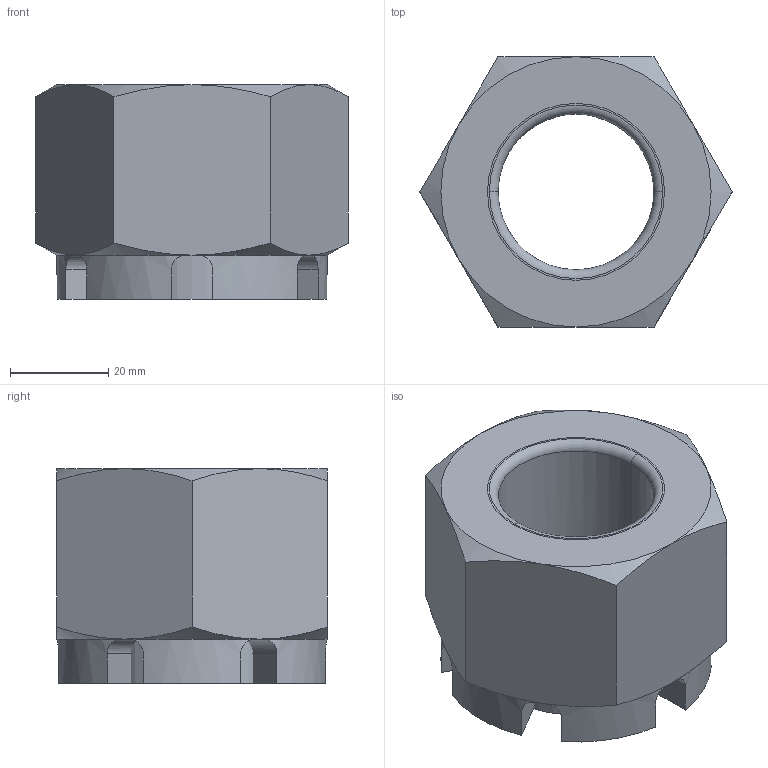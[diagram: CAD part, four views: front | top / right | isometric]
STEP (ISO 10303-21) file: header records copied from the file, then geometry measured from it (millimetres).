
FILE_DESCRIPTION((''),'2;1');
FILE_NAME('M36B_GB6180','2020-05-06T',('Administrator'),(''),'PRO/ENGINEER BY PARAMETRIC TECHNOLOGY CORPORATION, 2010280','PRO/ENGINEER BY PARAMETRIC TECHNOLOGY CORPORATION, 2010280','');
FILE_SCHEMA(());
Length unit declared in the file: millimetre
Products named in the file (1): M36B_GB6180
Bounding box: 63.51 x 55 x 43.7 mm (x, y, z)
Volume: 72312.9 mm3; surface area: 21023.2 mm2
Topology: 1 solids, 2 shells, 67 faces, 172 edges, 106 vertices
Faces by surface type: plane 31, cylinder 22, cone 12, torus 2
Entity records: 2275 total; most frequent: CARTESIAN_POINT 688, ORIENTED_EDGE 340, DIRECTION 314, EDGE_CURVE 172, AXIS2_PLACEMENT_3D 122, VERTEX_POINT 106, VECTOR 70, LINE 70
